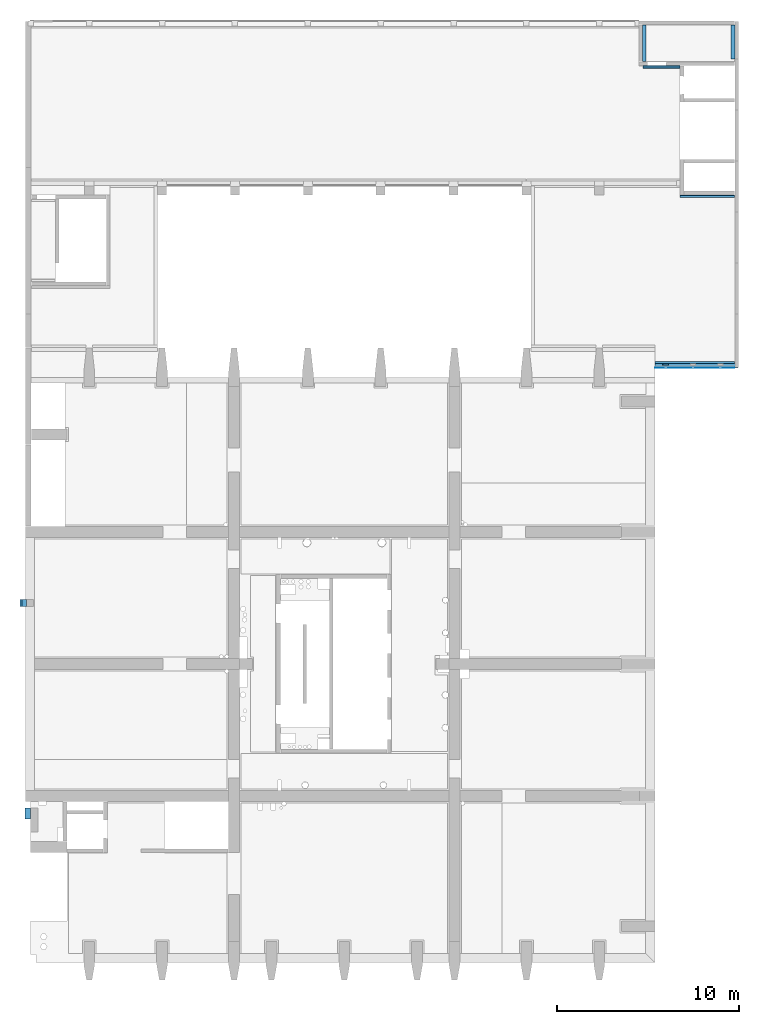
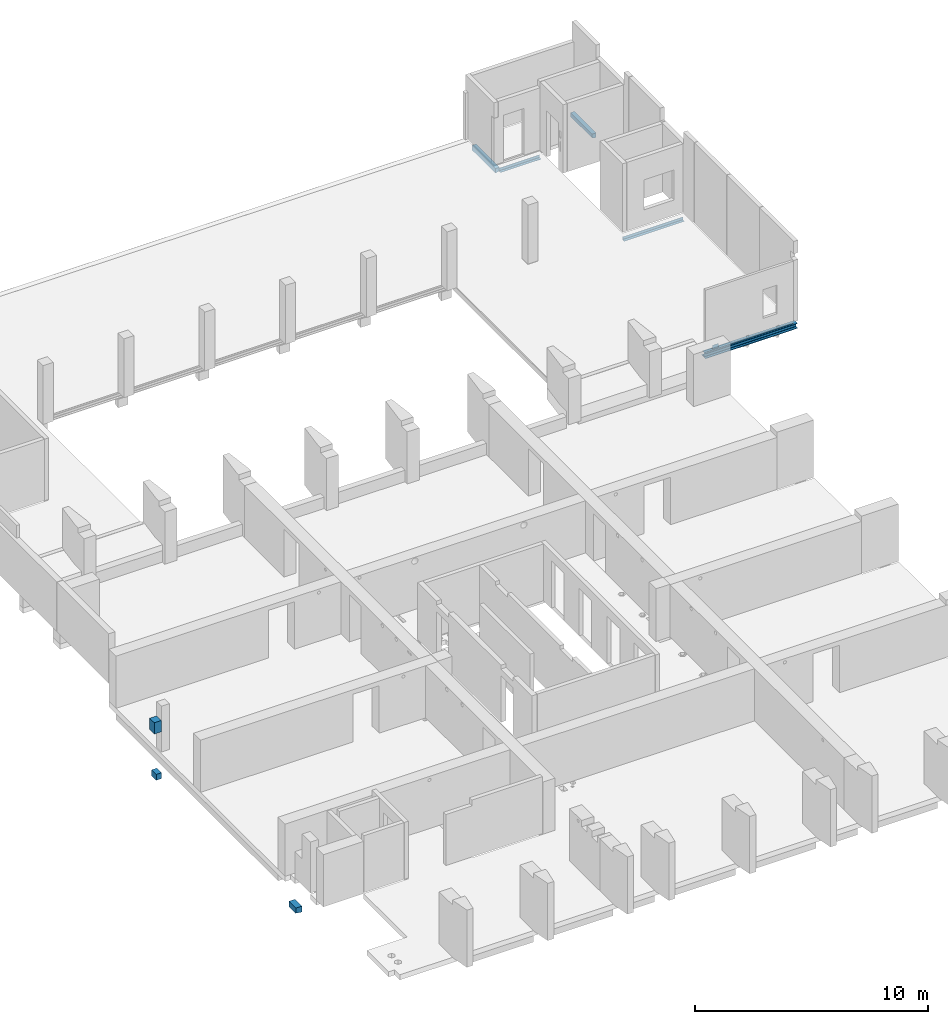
# One storey, part 3 of 10: 10 beams.
"""IFC2X3 building model written with IfcOpenShell, lengths in millimetres."""

from ifc_helpers import new_model, entity, si_unit, converted_unit, derived_unit, direction, frame, frame_2d, origin, origin_2d_with_axis, place, context, subcontext, project, spatial, polyline, circle_curve, parameter, trimmed, segment, composite_curve, rectangle, outline, extrude, source, transform, mapped, material, type_object, type_shapes, element, save


model = new_model("IFC2X3")

# Units and contexts
model_context = context("Model", 3, precision=0.01, world=origin(), true_north=direction((6.12303176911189e-17, 1.0)))
body_context = subcontext(model_context, "Body", "Model", "MODEL_VIEW")
ifc_project = project(units=[si_unit("LENGTHUNIT", "METRE", prefix="MILLI"), si_unit("AREAUNIT", "SQUARE_METRE"), si_unit("VOLUMEUNIT", "CUBIC_METRE"), converted_unit("PLANEANGLEUNIT", "DEGREE", entity("IfcRatioMeasure", 0.0174532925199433), si_unit("PLANEANGLEUNIT", "RADIAN"), dimensions=[0, 0, 0, 0, 0, 0, 0]), si_unit("MASSUNIT", "GRAM", prefix="KILO"), derived_unit("MASSDENSITYUNIT", [(si_unit("MASSUNIT", "GRAM", prefix="KILO"), 1), (si_unit("LENGTHUNIT", "METRE"), -3)]), si_unit("TIMEUNIT", "SECOND"), si_unit("FREQUENCYUNIT", "HERTZ"), si_unit("THERMODYNAMICTEMPERATUREUNIT", "DEGREE_CELSIUS"), derived_unit("THERMALTRANSMITTANCEUNIT", [(si_unit("MASSUNIT", "GRAM", prefix="KILO"), 1), (si_unit("THERMODYNAMICTEMPERATUREUNIT", "KELVIN"), -1), (si_unit("TIMEUNIT", "SECOND"), -3)]), derived_unit("VOLUMETRICFLOWRATEUNIT", [(si_unit("LENGTHUNIT", "METRE"), 3), (si_unit("TIMEUNIT", "SECOND"), -1)]), si_unit("ELECTRICCURRENTUNIT", "AMPERE"), si_unit("ELECTRICVOLTAGEUNIT", "VOLT"), si_unit("POWERUNIT", "WATT"), si_unit("FORCEUNIT", "NEWTON", prefix="KILO"), si_unit("ILLUMINANCEUNIT", "LUX"), si_unit("LUMINOUSFLUXUNIT", "LUMEN"), si_unit("LUMINOUSINTENSITYUNIT", "CANDELA"), derived_unit("USERDEFINED", [(si_unit("MASSUNIT", "GRAM", prefix="KILO"), -1), (si_unit("LENGTHUNIT", "METRE"), -2), (si_unit("TIMEUNIT", "SECOND"), 3), (si_unit("LUMINOUSFLUXUNIT", "LUMEN"), 1)]), derived_unit("LINEARVELOCITYUNIT", [(si_unit("LENGTHUNIT", "METRE"), 1), (si_unit("TIMEUNIT", "SECOND"), -1)]), si_unit("PRESSUREUNIT", "PASCAL"), derived_unit("USERDEFINED", [(si_unit("LENGTHUNIT", "METRE"), -2), (si_unit("MASSUNIT", "GRAM", prefix="KILO"), 1), (si_unit("TIMEUNIT", "SECOND"), -2)])], contexts=[model_context])

# Site, building, storey
site_placement = place(None, origin())
site = spatial("IfcSite", under=ifc_project, at=site_placement, Name="Default", CompositionType="ELEMENT")
building_placement = place(site_placement, origin())
building = spatial("IfcBuilding", under=site, at=building_placement, Name="niet gebruiken", CompositionType="ELEMENT")
storey_placement = place(building_placement, frame((0.0, 0.0, 9000.0)))
storey = spatial("IfcBuildingStorey", under=building, at=storey_placement, Name="02 tweede verdieping", CompositionType="ELEMENT", Elevation=9000.00000000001)

# Beams
ifc_material_1 = material(Name="NLRS_h2_staal")
beam_type_1 = type_object("IfcBeamType", Name="NLRS_28.11_SF_WPB_stalen ligger hoekprofiel gelijkzijdig_gen:ligger gelijzijdig hoekprofiel LEQU_150x150x15", PredefinedType="BEAM")
beam_1_placement = place(storey_placement, frame((163170.0, 43207.5, 540.0), z_axis=(0.0, 0.0, 1.0), x_axis=(-1.0, 0.0, 0.0)))
element("IfcBeam", 1, at=beam_1_placement, inside=storey, type_object=beam_type_1, material=ifc_material_1, Name="NLRS_28.11_SF_WPB_stalen ligger hoekprofiel gelijkzijdig_gen:ligger gelijzijdig hoekprofiel LEQU_150x150x15", ObjectType="NLRS_28.11_SF_WPB_stalen ligger hoekprofiel gelijkzijdig_gen:ligger gelijzijdig hoekprofiel LEQU_150x150x15", context=body_context, shape_type="SweptSolid", body=[
    extrude(outline(composite_curve([segment(polyline([(-93.3333333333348, -56.6666666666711), (56.6666666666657, -56.6666666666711)]), True, "CONTINUOUS"), segment(polyline([(56.6666666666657, -56.6666666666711), (56.6666666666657, 93.3333333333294)]), True, "CONTINUOUS"), segment(polyline([(56.6666666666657, 93.3333333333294), (49.6666666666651, 93.3333333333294)]), True, "CONTINUOUS"), segment(trimmed(circle_curve(frame_2d((49.6666666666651, 85.3333333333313), x_axis=(0.0, 1.0)), 7.99999999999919), [parameter(0.0)], [parameter(90.0000000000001)], True, "PARAMETER"), True, "CONTINUOUS"), segment(polyline([(41.6666666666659, 85.3333333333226), (41.6666666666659, -25.6666666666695)]), True, "CONTINUOUS"), segment(trimmed(circle_curve(frame_2d((25.6666666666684, -25.6666666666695), x_axis=(1.0, 0.0)), 15.9999999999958), [parameter(269.999999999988)], [parameter(0.0)], True, "PARAMETER"), False, "CONTINUOUS"), segment(polyline([(25.6666666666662, -41.6666666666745), (-85.3333333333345, -41.6666666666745)]), True, "CONTINUOUS"), segment(trimmed(circle_curve(frame_2d((-85.3333333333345, -49.6666666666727), x_axis=(0.0, 1.0)), 7.99999999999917), [parameter(0.0)], [parameter(90.0000000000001)], True, "PARAMETER"), True, "CONTINUOUS"), segment(polyline([(-93.3333333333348, -49.6666666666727), (-93.3333333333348, -56.6666666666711)]), True, "CONTINUOUS")], self_intersect=False)), frame((0.0, 14.1666666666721, -18.3333333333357), z_axis=(1.0, 0.0, 0.0), x_axis=(0.0, 0.0, -1.0)), (0.0, 0.0, 1.0), 2980.00000000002),
])
beam_2_placement = place(storey_placement, frame((160170.0, 50307.5, 540.0), z_axis=(0.0, 0.0, 1.0), x_axis=(-1.0, 0.0, 0.0)))
element("IfcBeam", 2, at=beam_2_placement, inside=storey, type_object=beam_type_1, material=ifc_material_1, Name="NLRS_28.11_SF_WPB_stalen ligger hoekprofiel gelijkzijdig_gen:ligger gelijzijdig hoekprofiel LEQU_150x150x15", ObjectType="NLRS_28.11_SF_WPB_stalen ligger hoekprofiel gelijkzijdig_gen:ligger gelijzijdig hoekprofiel LEQU_150x150x15", context=body_context, shape_type="SweptSolid", body=[
    extrude(outline(composite_curve([segment(polyline([(-93.3333333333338, -56.6666666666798), (56.6666666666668, -56.6666666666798)]), True, "CONTINUOUS"), segment(polyline([(56.6666666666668, -56.6666666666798), (56.6666666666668, 93.3333333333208)]), True, "CONTINUOUS"), segment(polyline([(56.6666666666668, 93.3333333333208), (49.6666666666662, 93.3333333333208)]), True, "CONTINUOUS"), segment(trimmed(circle_curve(frame_2d((49.6666666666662, 85.3333333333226), x_axis=(0.0, 1.0)), 7.99999999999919), [parameter(0.0)], [parameter(90.0000000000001)], True, "PARAMETER"), True, "CONTINUOUS"), segment(polyline([(41.6666666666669, 85.3333333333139), (41.6666666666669, -25.6666666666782)]), True, "CONTINUOUS"), segment(trimmed(circle_curve(frame_2d((25.6666666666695, -25.6666666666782), x_axis=(1.0, 0.0)), 15.9999999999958), [parameter(269.999999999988)], [parameter(0.0)], True, "PARAMETER"), False, "CONTINUOUS"), segment(polyline([(25.6666666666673, -41.6666666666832), (-85.3333333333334, -41.6666666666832)]), True, "CONTINUOUS"), segment(trimmed(circle_curve(frame_2d((-85.3333333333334, -49.6666666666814), x_axis=(0.0, 1.0)), 7.99999999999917), [parameter(0.0)], [parameter(90.0000000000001)], True, "PARAMETER"), True, "CONTINUOUS"), segment(polyline([(-93.3333333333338, -49.6666666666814), (-93.3333333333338, -56.6666666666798)]), True, "CONTINUOUS")], self_intersect=False)), frame((0.0, 14.1666666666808, -18.3333333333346), z_axis=(1.0, 0.0, 0.0), x_axis=(0.0, 0.0, -1.0)), (0.0, 0.0, 1.0), 2010.00000000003),
])
ifc_material_2 = material(Name="NLRS_f2_beton ihwg")
beam_type_2 = type_object("IfcBeamType", Name="NLRS_28.11_SF_WPB_oplegnok ihwg beton_gen:250x310", PredefinedType="BEAM")
beam_3_placement = place(storey_placement, frame((124175.0, 21046.0, -1170.0), z_axis=(0.0, 0.0, 1.0), x_axis=(0.0, -1.0, 0.0)))
element("IfcBeam", 3, at=beam_3_placement, inside=storey, type_object=beam_type_2, material=ifc_material_2, Name="NLRS_28.11_SF_WPB_oplegnok ihwg beton_gen:250x310", ObjectType="NLRS_28.11_SF_WPB_oplegnok ihwg beton_gen:250x310", context=body_context, shape_type="SweptSolid", body=[
    extrude(rectangle(XDim=310.000000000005, YDim=250.000000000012, at=frame_2d((0.0, 1.73230318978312e-11), x_axis=(1.0, 0.0))), frame((0.0, 0.0, -155.0), z_axis=(1.0, 0.0, 0.0), x_axis=(0.0, 0.0, -1.0)), (0.0, 0.0, 1.0), 400.000000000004),
])
ifc_material_3 = material(Name="NLRS_f2_beton prefab")
beam_type_3 = type_object("IfcBeamType", Name="NLRS_28.11_SF_WPB_oplegnok prefabbeton_gen:200x250 slope", PredefinedType="BEAM")
beam_4_placement = place(storey_placement, frame((163090.0, 52580.0, 475.0), z_axis=(0.0, 0.0, 1.0), x_axis=(0.0, -1.0, 0.0)))
element("IfcBeam", 4, at=beam_4_placement, inside=storey, type_object=beam_type_3, material=ifc_material_3, Name="NLRS_28.11_SF_WPB_oplegnok prefabbeton_gen:200x250 slope", ObjectType="NLRS_28.11_SF_WPB_oplegnok prefabbeton_gen:200x250 slope", context=body_context, shape_type="SweptSolid", body=[
    extrude(outline(polyline([(-111.602540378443, -100.0), (84.8076211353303, -100.0), (138.397459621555, 100.0), (-111.602540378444, 100.0), (-111.602540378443, -100.0)])), frame((0.0, 0.0, -111.602540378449), z_axis=(1.0, 0.0, 0.0), x_axis=(0.0, 0.0, -1.0)), (0.0, 0.0, 1.0), 1860.00000000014),
])
beam_5_placement = place(storey_placement, frame((158220.0, 50570.0, 475.0), z_axis=(0.0, 0.0, 1.0), x_axis=(0.0, 1.0, 0.0)))
element("IfcBeam", 5, at=beam_5_placement, inside=storey, type_object=beam_type_3, material=ifc_material_3, Name="NLRS_28.11_SF_WPB_oplegnok prefabbeton_gen:200x250 slope", ObjectType="NLRS_28.11_SF_WPB_oplegnok prefabbeton_gen:200x250 slope", context=body_context, shape_type="SweptSolid", body=[
    extrude(outline(polyline([(-111.602540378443, -100.0), (84.8076211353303, -100.0), (138.397459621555, 100.0), (-111.602540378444, 100.0), (-111.602540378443, -100.0)])), frame((0.0, 0.0, -111.602540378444), z_axis=(1.0, 0.0, 0.0), x_axis=(0.0, 0.0, -1.0)), (0.0, 0.0, 1.0), 2010.00000000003),
])
beam_type_4 = type_object("IfcBeamType", Name="NLRS_28.11_SF_WPB_oplegnok ihwg beton_gen:350x600", PredefinedType="BEAM")
beam_6_placement = place(storey_placement, frame((124125.0, 21046.0, 1570.0), z_axis=(0.0, 0.0, 1.0), x_axis=(0.0, -1.0, 0.0)))
element("IfcBeam", 6, at=beam_6_placement, inside=storey, type_object=beam_type_4, material=ifc_material_2, Name="NLRS_28.11_SF_WPB_oplegnok ihwg beton_gen:350x600", ObjectType="NLRS_28.11_SF_WPB_oplegnok ihwg beton_gen:350x600", context=body_context, shape_type="SweptSolid", body=[
    extrude(rectangle(XDim=600.000000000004, YDim=349.99999999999, at=frame_2d((2.18847162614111e-12, 0.0), x_axis=(1.0, 0.0))), frame((0.0, 0.0, -300.0), z_axis=(1.0, 0.0, 0.0), x_axis=(0.0, 0.0, -1.0)), (0.0, 0.0, 1.0), 400.000000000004),
])
beam_type_5 = type_object("IfcBeamType", Name="NLRS_28.11_SF_WPB_oplegnok prefabbeton_gen:300x310 met afschuining 7,6gr", PredefinedType="BEAM")
beam_7_placement = place(storey_placement, frame((124380.0, 9586.0, -1170.0), z_axis=(0.0, 0.0, 1.0), x_axis=(0.0, -1.0, 0.0)))
element("IfcBeam", 7, at=beam_7_placement, inside=storey, type_object=beam_type_5, material=ifc_material_3, Name="NLRS_28.11_SF_WPB_oplegnok prefabbeton_gen:300x310 met afschuining 7,6gr", ObjectType="NLRS_28.11_SF_WPB_oplegnok prefabbeton_gen:300x310 met afschuining 7,6gr", context=body_context, shape_type="SweptSolid", body=[
    extrude(outline(polyline([(-144.992863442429, -150.0), (124.978590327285, -150.0), (165.007136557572, 150.0), (-144.992863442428, 150.0), (-144.992863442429, -150.0)])), frame((0.0, 0.0, -144.992863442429), z_axis=(1.0, 0.0, 0.0), x_axis=(0.0, 0.0, -1.0)), (0.0, 0.0, 1.0), 590.0),
])
beam_type_6 = type_object("IfcBeamType", Name="ligger SFB260 HE260B+355x12", PredefinedType="BEAM", material=ifc_material_1)
shared_shape_1 = source(origin(), body_context, "Body", "SweptSolid", [
    extrude(rectangle(XDim=4355.00000000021, YDim=355.000000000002, at=frame_2d((-1.75077730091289e-11, 2.1600499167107e-12), x_axis=(1.0, 0.0))), frame((160992.5, 33924.5, 9468.0)), (0.0, 0.0, 1.0), 11.9999999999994),
    extrude(outline(composite_curve([segment(polyline([(-130.0, -112.500000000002), (-130.0, -130.0)]), True, "CONTINUOUS"), segment(polyline([(-130.0, -130.0), (130.0, -130.0)]), True, "CONTINUOUS"), segment(polyline([(130.0, -130.0), (130.0, -112.500000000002)]), True, "CONTINUOUS"), segment(polyline([(130.0, -112.500000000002), (29.0, -112.500000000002)]), True, "CONTINUOUS"), segment(trimmed(circle_curve(frame_2d((29.0, -88.5000000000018), x_axis=(-1.0, 0.0)), 24.0), [parameter(3.56222124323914e-13)], [parameter(90.0000000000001)], True, "PARAMETER"), False, "CONTINUOUS"), segment(polyline([(5.0, -88.5000000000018), (5.0, 88.4999999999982)]), True, "CONTINUOUS"), segment(trimmed(circle_curve(frame_2d((29.0, 88.4999999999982), x_axis=(0.0, 1.0)), 24.0), [parameter(3.56222124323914e-13)], [parameter(90.0000000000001)], True, "PARAMETER"), False, "CONTINUOUS"), segment(polyline([(29.0, 112.499999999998), (130.0, 112.499999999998)]), True, "CONTINUOUS"), segment(polyline([(130.0, 112.499999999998), (130.0, 130.0)]), True, "CONTINUOUS"), segment(polyline([(130.0, 130.0), (-130.0, 130.0)]), True, "CONTINUOUS"), segment(polyline([(-130.0, 130.0), (-130.0, 112.499999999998)]), True, "CONTINUOUS"), segment(polyline([(-130.0, 112.499999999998), (-29.0, 112.499999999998)]), True, "CONTINUOUS"), segment(trimmed(circle_curve(frame_2d((-29.0, 88.4999999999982), x_axis=(1.0, 0.0)), 24.0), [parameter(0.0)], [parameter(90.0000000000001)], True, "PARAMETER"), False, "CONTINUOUS"), segment(polyline([(-5.0, 88.4999999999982), (-5.0, -88.5000000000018)]), True, "CONTINUOUS"), segment(trimmed(circle_curve(frame_2d((-29.0, -88.5000000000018), x_axis=(0.0, -1.0)), 24.0), [parameter(0.0)], [parameter(90.0000000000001)], True, "PARAMETER"), False, "CONTINUOUS"), segment(polyline([(-29.0, -112.500000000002), (-130.0, -112.500000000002)]), True, "CONTINUOUS")], self_intersect=False)), frame((158815.0, 33877.0, 9610.0), z_axis=(-1.0, 0.0, 0.0), x_axis=(0.0, 1.0, 0.0)), (0.0, 0.0, -1.0), 4555.00000000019),
])
type_shapes(beam_type_6, [shared_shape_1])
beam_8_placement = place(storey_placement, frame((0.0, 0.0, -9000.0)))
element("IfcBeam", 8, at=beam_8_placement, inside=storey, type_object=beam_type_6, material=ifc_material_1, Name="NLRS_28.11_SF_WPB_stalen ligger SFB_gen_BSc:ligger SFB260 HE260B+355x12", ObjectType="ligger SFB260 HE260B+355x12", context=body_context, shape_type="MappedRepresentation", body=[
    mapped(shared_shape_1, transform((0.0, 0.0, 0.0), scale=1.0)),
])
beam_type_7 = type_object("IfcBeamType", Name="ligger stripstaal RECT_70x5", PredefinedType="BEAM", material=ifc_material_1)
shared_shape_2 = source(origin(), body_context, "Body", "SweptSolid", [
    extrude(rectangle(XDim=4355.00000000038, YDim=4.99999999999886, at=origin_2d_with_axis()), frame((160992.5, 33749.5, 9740.0)), (0.0, 0.0, 1.0), 70.0000000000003),
    extrude(rectangle(XDim=4355.00000000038, YDim=4.99999999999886, at=origin_2d_with_axis()), frame((160992.5, 33749.5, 9740.0)), (0.0, 0.0, 1.0), 70.0000000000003),
])
type_shapes(beam_type_7, [shared_shape_2])
beam_9_placement = place(storey_placement, frame((0.0, 0.0, -9000.0)))
element("IfcBeam", 9, at=beam_9_placement, inside=storey, type_object=beam_type_7, material=ifc_material_1, Name="NLRS_28.11_SF_WPB_stalen ligger stripstaal_gen:ligger stripstaal RECT_70x5", ObjectType="ligger stripstaal RECT_70x5", context=body_context, shape_type="MappedRepresentation", body=[
    mapped(shared_shape_2, transform((0.0, 0.0, 0.0), scale=1.0)),
])
beam_type_8 = type_object("IfcBeamType", Name="NLRS_28.11_SF_WPB_stalen ligger hoekprofiel ongelijkzijdig_gen:ligger ongelijzijdig hoekprofiel LUEQ_200x100x10", PredefinedType="BEAM")
beam_10_placement = place(storey_placement, frame((159245.0, 33910.13, 940.0)))
element("IfcBeam", 10, at=beam_10_placement, inside=storey, type_object=beam_type_8, material=ifc_material_1, Name="NLRS_28.11_SF_WPB_stalen ligger hoekprofiel ongelijkzijdig_gen:ligger ongelijzijdig hoekprofiel LUEQ_200x100x10", ObjectType="NLRS_28.11_SF_WPB_stalen ligger hoekprofiel ongelijkzijdig_gen:ligger ongelijzijdig hoekprofiel LUEQ_200x100x10", context=body_context, shape_type="SweptSolid", body=[
    extrude(outline(composite_curve([segment(polyline([(-128.888888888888, -37.777777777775), (71.1111111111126, -37.777777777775)]), True, "CONTINUOUS"), segment(polyline([(71.1111111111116, -37.777777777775), (71.1111111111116, 62.2222222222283)]), True, "CONTINUOUS"), segment(polyline([(71.1111111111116, 62.222222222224), (68.6111111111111, 62.222222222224)]), True, "CONTINUOUS"), segment(trimmed(circle_curve(frame_2d((68.6111111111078, 54.7222222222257), x_axis=(0.0, 1.0)), 7.49999999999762), [parameter(0.0)], [parameter(90.0000000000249)], True, "PARAMETER"), True, "CONTINUOUS"), segment(polyline([(61.1111111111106, 54.7222222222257), (61.1111111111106, -12.777777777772)]), True, "CONTINUOUS"), segment(trimmed(circle_curve(frame_2d((46.1111111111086, -12.7777777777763), x_axis=(1.0, 0.0)), 15.0000000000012), [parameter(270.000000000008)], [parameter(0.0)], True, "PARAMETER"), False, "CONTINUOUS"), segment(polyline([(46.1111111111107, -27.7777777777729), (-121.38888888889, -27.7777777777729)]), True, "CONTINUOUS"), segment(trimmed(circle_curve(frame_2d((-121.388888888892, -35.2777777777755), x_axis=(0.0, 1.0)), 7.49999999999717), [parameter(0.0)], [parameter(90.0000000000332)], True, "PARAMETER"), True, "CONTINUOUS"), segment(polyline([(-128.888888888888, -35.2777777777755), (-128.888888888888, -37.777777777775)]), True, "CONTINUOUS")], self_intersect=False)), frame((0.0, 17.6477777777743, -128.888888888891), z_axis=(1.0, 0.0, 0.0), x_axis=(0.0, 0.0, -1.0)), (0.0, 0.0, 1.0), 300.000000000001),
])

save(model, "model.ifc")
